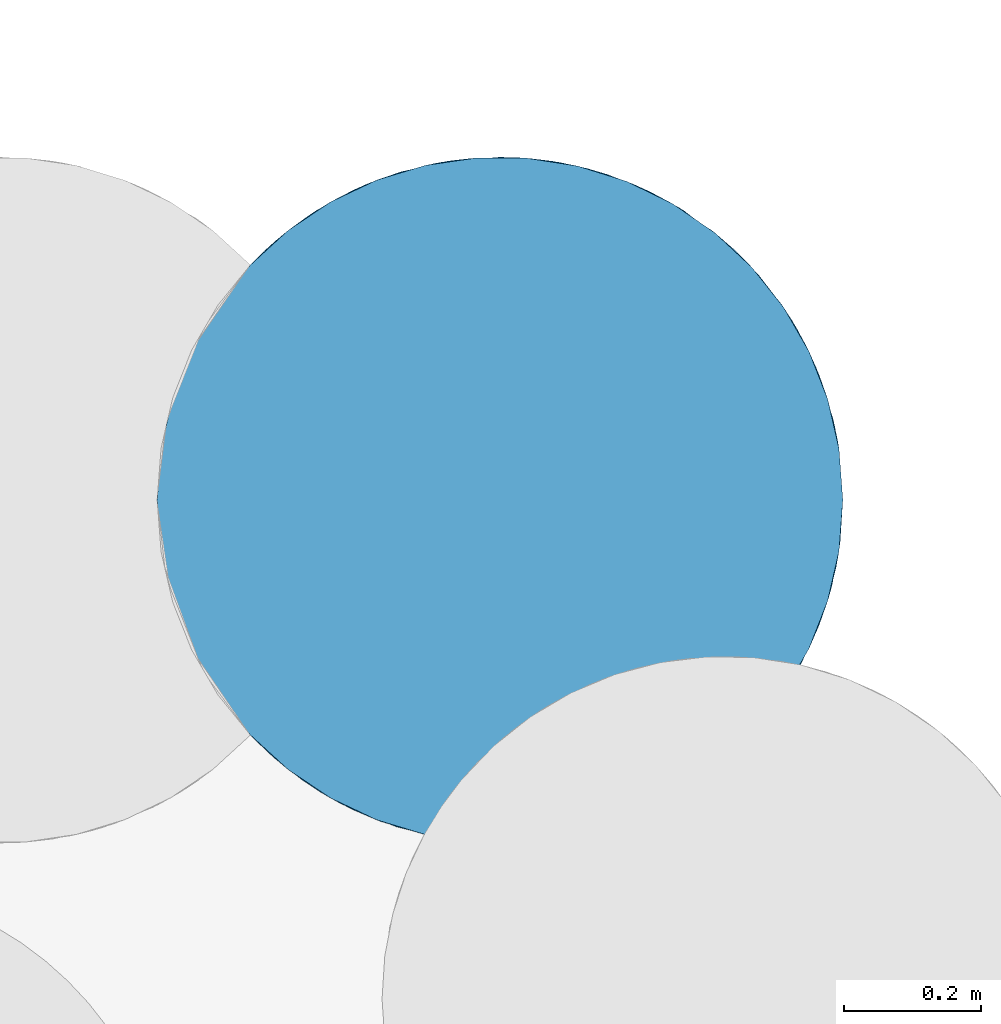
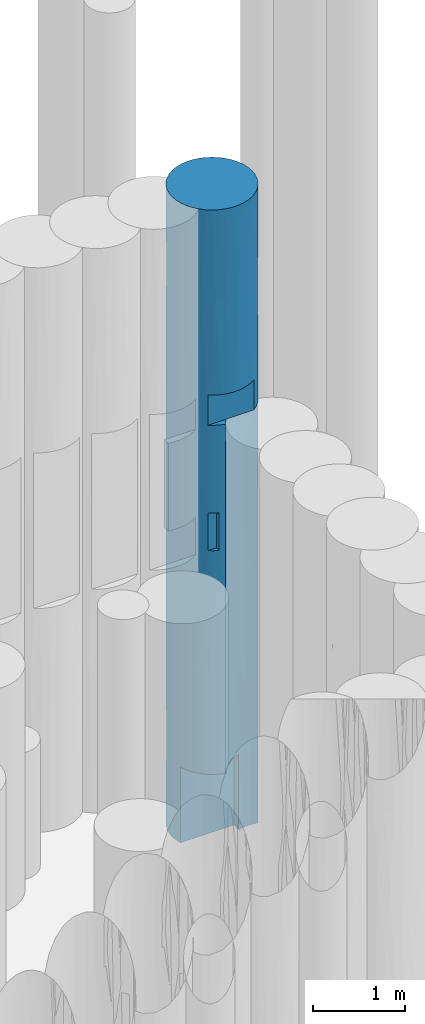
# One storey, part 70 of 104: 1 pile.
"""IFC2X3 building model written with IfcOpenShell, lengths in millimetres."""

from ifc_helpers import new_model, entity, si_unit, converted_unit, derived_unit, direction, frame, origin, place, context, subcontext, project, spatial, faceted_brep, source, transform, mapped, material, element, save


model = new_model("IFC2X3")

# Units and contexts
model_context = context("Model", 3, precision=0.01, world=origin(), true_north=direction((6.12303176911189e-17, 1.0)))
body_context = subcontext(model_context, "Body", "Model", "MODEL_VIEW")
ifc_project = project(units=[si_unit("LENGTHUNIT", "METRE", prefix="MILLI"), si_unit("AREAUNIT", "SQUARE_METRE", prefix="MILLI"), si_unit("VOLUMEUNIT", "CUBIC_METRE"), converted_unit("PLANEANGLEUNIT", "DEGREE", entity("IfcRatioMeasure", 0.0174532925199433), si_unit("PLANEANGLEUNIT", "RADIAN"), dimensions=[0, 0, 0, 0, 0, 0, 0]), si_unit("MASSUNIT", "GRAM", prefix="KILO"), derived_unit("MASSDENSITYUNIT", [(si_unit("MASSUNIT", "GRAM", prefix="KILO"), 1), (si_unit("LENGTHUNIT", "METRE"), -3)]), derived_unit("MOMENTOFINERTIAUNIT", [(si_unit("LENGTHUNIT", "METRE"), 4)]), si_unit("TIMEUNIT", "SECOND"), si_unit("FREQUENCYUNIT", "HERTZ"), si_unit("THERMODYNAMICTEMPERATUREUNIT", "DEGREE_CELSIUS"), derived_unit("THERMALTRANSMITTANCEUNIT", [(si_unit("MASSUNIT", "GRAM", prefix="KILO"), 1), (si_unit("THERMODYNAMICTEMPERATUREUNIT", "KELVIN"), -1), (si_unit("TIMEUNIT", "SECOND"), -3)]), derived_unit("VOLUMETRICFLOWRATEUNIT", [(si_unit("LENGTHUNIT", "METRE"), 3), (si_unit("TIMEUNIT", "SECOND"), -1)]), si_unit("ELECTRICCURRENTUNIT", "AMPERE"), si_unit("ELECTRICVOLTAGEUNIT", "VOLT"), si_unit("POWERUNIT", "WATT"), si_unit("FORCEUNIT", "NEWTON", prefix="KILO"), si_unit("ILLUMINANCEUNIT", "LUX"), si_unit("LUMINOUSFLUXUNIT", "LUMEN"), si_unit("LUMINOUSINTENSITYUNIT", "CANDELA"), derived_unit("USERDEFINED", [(si_unit("MASSUNIT", "GRAM", prefix="KILO"), -1), (si_unit("LENGTHUNIT", "METRE"), -2), (si_unit("TIMEUNIT", "SECOND"), 3), (si_unit("LUMINOUSFLUXUNIT", "LUMEN"), 1)]), derived_unit("LINEARVELOCITYUNIT", [(si_unit("LENGTHUNIT", "METRE"), 1), (si_unit("TIMEUNIT", "SECOND"), -1)]), si_unit("PRESSUREUNIT", "PASCAL"), derived_unit("USERDEFINED", [(si_unit("LENGTHUNIT", "METRE"), -2), (si_unit("MASSUNIT", "GRAM", prefix="KILO"), 1), (si_unit("TIMEUNIT", "SECOND"), -2)]), derived_unit("LINEARFORCEUNIT", [(si_unit("MASSUNIT", "GRAM", prefix="KILO"), 1), (si_unit("LENGTHUNIT", "METRE"), 1), (si_unit("TIMEUNIT", "SECOND"), -2), (si_unit("LENGTHUNIT", "METRE"), -1)]), derived_unit("PLANARFORCEUNIT", [(si_unit("MASSUNIT", "GRAM", prefix="KILO"), 1), (si_unit("LENGTHUNIT", "METRE"), 1), (si_unit("TIMEUNIT", "SECOND"), -2), (si_unit("LENGTHUNIT", "METRE"), -2)])], contexts=[model_context])

# Site, building, storey
site_placement = place(None, origin())
site = spatial("IfcSite", under=ifc_project, at=site_placement, Name="Theater aan de Parade", CompositionType="ELEMENT")
building_placement = place(site_placement, origin())
building = spatial("IfcBuilding", under=site, at=building_placement, Name="Theater aan de Parade", CompositionType="ELEMENT")
storey_placement = place(building_placement, frame((0.0, 0.0, -5520.0)))
storey = spatial("IfcBuildingStorey", under=building, at=storey_placement, Name="-2 kelder", CompositionType="ELEMENT", Elevation=-5520.0)

# Pile
ifc_material = material(Name="00_PBT_MAT_grout")
shared_shape = source(origin(), body_context, "Body", "Brep", [
    faceted_brep([(614.879752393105, 988.592835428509, 0.0), (685.979239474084, 966.35601996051, 0.0), (752.986099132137, 933.801996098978, 0.0), (814.412967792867, 891.653074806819, 0.0), (868.896207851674, 840.844476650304, 0.0), (915.226149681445, 782.50361533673, 0.0), (952.373927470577, 717.925122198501, 0.0), (979.514314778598, 648.542163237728, 0.0), (996.043880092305, 575.895838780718, 0.0), (1001.59527223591, 501.595272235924, 0.0), (997.667943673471, 439.050051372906, 0.0), (985.955293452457, 377.517192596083, 0.0), (966.641388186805, 317.932238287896, 0.0), (940.037790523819, 261.245198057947, 0.0), (878.381372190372, 271.209496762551, 0.0), (815.963734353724, 273.409418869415, 0.0), (753.758792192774, 267.810638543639, 0.0), (692.737142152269, 254.500514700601, 0.0), (692.737142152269, 356.68103265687, 0.0), (23.0559706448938, 356.68103265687, 0.0), (6.99007058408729, 428.344371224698, 0.0), (1.5952722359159, 501.595272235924, 0.0), (7.29158640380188, 576.853934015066, 0.0), (24.2499475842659, 650.395275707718, 0.0), (52.0837551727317, 720.54594254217, 0.0), (90.1583213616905, 785.707284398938, 0.0), (137.618418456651, 844.404449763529, 0.0), (192.581099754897, 894.673179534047, 0.0), (254.415546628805, 936.224060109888, 0.0), (321.736393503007, 968.125854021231, 0.0), (393.04921418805, 989.670833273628, 0.0), (466.77109862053, 1000.38107489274, 0.0), (541.265748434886, 1000.01904104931, 0.0), (935.004494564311, 750.907217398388, 6006.40132529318), (967.238216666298, 683.739853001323, 7166.73514551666), (987.240716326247, 620.542750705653, 6024.30978994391), (429.710411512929, 996.400857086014, 783.931231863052), (287.480995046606, 953.430503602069, 1278.67891560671), (578.28584604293, 995.678823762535, 1238.37083135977), (720.089799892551, 951.328683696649, 1238.37130453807), (952.373927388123, 717.925122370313, 8470.0), (979.51431475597, 648.542163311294, 8470.0), (842.60218751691, 867.264909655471, 829.93503961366), (935.004496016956, 750.90721487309, 1093.77232890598), (967.23821694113, 683.739852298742, 2012.58010753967), (979.748707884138, 647.777665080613, 1036.70203539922), (946.604077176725, 729.558347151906, 3007.50965257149), (987.455118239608, 619.663938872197, 3210.78052460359), (52.0837552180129, 720.545942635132, 8470.0), (36.8413800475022, 685.996518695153, 7378.86348015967), (24.2499475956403, 650.395275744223, 8470.0), (174.18136322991, 879.484319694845, 792.219441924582), (112.768381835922, 815.941656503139, 7378.87742593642), (915.529193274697, 782.056872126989, 6988.26448293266), (915.226149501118, 782.503615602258, 8470.0), (425.323759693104, 995.743687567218, 5160.58735903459), (460.391936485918, 999.89466529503, 6076.12888598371), (546.887284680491, 999.539680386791, 5519.09604126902), (720.089799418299, 951.328683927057, 7191.32349423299), (578.285845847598, 995.678823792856, 6830.56155741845), (578.285846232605, 995.678823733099, 7686.07261201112), (814.412967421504, 891.653075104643, 8470.0), (842.602186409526, 867.264910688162, 6880.8912949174), (868.89620756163, 840.844476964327, 8470.0), (69.889855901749, 753.846007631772, 2487.23146922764), (36.84137996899, 685.9965184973, 1316.25885127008), (16.5527936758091, 622.978112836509, 2468.34522716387), (164.150056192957, 870.554248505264, 1604.90228279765), (112.768381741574, 815.94165638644, 913.117482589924), (994.263535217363, 586.906365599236, 7493.8968677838), (1001.59527223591, 501.595272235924, 4235.0), (1001.59527223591, 501.595272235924, 3176.23864720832), (1001.59527223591, 501.595272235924, 3123.0754357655), (1001.59527223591, 501.595272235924, 2342.30657682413), (721.752506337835, 950.517083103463, 4293.41491700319), (720.089798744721, 951.3286842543, 5867.55129722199), (843.452386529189, 866.470200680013, 5079.32426143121), (911.414448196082, 788.035917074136, 3808.16910320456), (842.602186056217, 867.26491101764, 3489.23096735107), (650.844207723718, 978.800422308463, 2325.33443126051), (530.65224438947, 1000.75025054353, 2275.34397952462), (8.61685133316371, 585.095431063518, 7500.8427255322), (224.722184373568, 917.938031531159, 5826.45480846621), (304.356624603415, 961.048116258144, 5311.4688795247), (234.3673742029, 924.193486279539, 4653.12720320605), (993.784620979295, 589.627340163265, 1951.92212909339), (1001.59527223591, 501.595272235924, 2117.52270558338), (1001.59527223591, 501.595272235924, 1561.53771788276), (10.2811702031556, 594.387799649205, 3679.03770688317), (13.2799520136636, 609.057582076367, 5081.8905171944), (34.1815767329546, 679.146496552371, 4302.01610378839), (586.496600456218, 994.334315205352, 3335.025339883), (752.986098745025, 933.801996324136, 8470.0), (685.979239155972, 966.356020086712, 8470.0), (222.723380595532, 916.601860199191, 6928.79921998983), (192.581100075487, 894.673179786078, 8470.0), (254.415547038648, 936.224060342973, 8470.0), (161.808140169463, 868.398632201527, 3085.18352935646), (228.498480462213, 920.424762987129, 3778.98636503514), (287.480994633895, 953.430503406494, 2602.45453624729), (143.130957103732, 850.168556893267, 6338.53794671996), (69.8898561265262, 753.84600801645, 6468.24917571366), (429.710411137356, 996.400857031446, 1639.44637523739), (762.641649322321, 928.039628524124, 2381.95697908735), (695.660280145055, 962.397586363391, 3278.11985044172), (1001.59527223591, 501.595272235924, 780.799601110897), (9.21920859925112, 588.576948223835, 983.589582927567), (1001.59527223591, 501.595272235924, 8470.0), (1001.59527223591, 501.595272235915, 7689.2003988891), (1001.59527223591, 501.595272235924, 6908.46228211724), (16.5144203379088, 622.82467098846, 6193.84894821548), (1.5952722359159, 501.595272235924, 6908.46121169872), (810.201772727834, 894.993324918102, 5977.74937285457), (1.5952722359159, 501.595272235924, 8470.0), (7.29158640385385, 576.853934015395, 8470.0), (1.5952722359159, 501.595272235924, 1058.74156434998), (1.5952722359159, 501.595272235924, 1561.53878830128), (164.150056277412, 870.554248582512, 4980.68938137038), (90.1583214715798, 785.707284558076, 8470.0), (913.386067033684, 785.194181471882, 2086.50147537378), (429.710411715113, 996.400857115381, 7231.62737480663), (466.77109883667, 1000.38107490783, 8470.0), (393.049214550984, 989.67083335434, 8470.0), (321.079010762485, 967.871884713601, 7124.1059567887), (879.369920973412, 829.141169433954, 6132.9364975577), (356.990989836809, 980.228327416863, 6144.66396241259), (46.8848944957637, 709.53389869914, 5412.60505270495), (88.6878001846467, 783.565872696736, 4602.88569904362), (321.736393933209, 968.125854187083, 8470.0), (628.053542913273, 985.339322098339, 6039.01795246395), (659.507571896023, 976.004068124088, 5163.38770416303), (137.595272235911, 844.38383680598, 8470.0), (412.643588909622, 993.619253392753, 2869.78988386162), (541.265748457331, 1000.01904104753, 8470.0), (614.879752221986, 988.592835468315, 8470.0), (996.043880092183, 575.895838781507, 8470.0), (1001.59527223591, 501.595272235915, 6352.47729441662), (1001.59527223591, 501.595272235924, 5346.9245642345), (1.5952722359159, 501.595272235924, 2117.49437623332), (1.5952722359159, 501.595272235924, 3123.07757660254), (842.602187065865, 867.264910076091, 1727.79736485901), (100.491362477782, 800.117722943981, 5565.96232685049), (1.5952722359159, 501.595272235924, 5346.92242339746), (1.59527223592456, 501.595272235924, 5571.73559930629), (71.3637254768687, 756.351658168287, 3565.6640012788), (963.177863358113, 693.797019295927, 4042.89600481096), (990.367564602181, 606.959622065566, 4790.96224306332), (927.238143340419, 763.946461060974, 4895.75171750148), (404.33450723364, 992.044396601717, 3861.35767844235), (504.025174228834, 1001.58936777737, 4235.0), (500.703442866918, 1001.59447687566, 3065.47306574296), (861.742101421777, 848.4299034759, 2608.51416466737), (1001.59527223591, 501.595272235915, 5293.76135279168), (770.524282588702, 923.112991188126, 3618.11568856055), (615.560770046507, 988.433916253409, 4337.90594886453), (143.724944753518, 850.778359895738, 4036.74214475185), (307.080762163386, 962.208022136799, 3459.14084330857), (313.348361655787, 964.804836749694, 4336.05058340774), (1.5952722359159, 501.595272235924, 3176.24718811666), (1.5952722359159, 501.595272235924, 4235.0), (9.64634836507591, 412.22941576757, 1740.22174355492), (51.439447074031, 283.972357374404, 5820.0), (11.5485940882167, 402.326680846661, 4752.0906332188), (45.6281394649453, 296.427112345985, 4504.53263858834), (69.8898563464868, 249.344536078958, 7143.18927536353), (14.3812206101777, 389.245515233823, 7636.7435996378), (19.7188238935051, 368.197039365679, 6756.42794942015), (23.0559706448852, 356.681032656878, 1000.0), (32.2094058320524, 329.325401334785, 2204.61990219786), (68.8655841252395, 251.105717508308, 1000.0), (118.441121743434, 180.358759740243, 2386.20475806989), (985.281736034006, 374.916920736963, 3512.50000024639), (940.037790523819, 261.245198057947, 4215.0), (940.037790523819, 261.245198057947, 4058.46235266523), (940.037790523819, 261.245198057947, 2810.0), (8.81759326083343, 416.91848023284, 2646.87500000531), (100.559262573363, 202.981610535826, 1000.0), (137.597434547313, 158.804411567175, 1000.0), (287.480995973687, 49.7600404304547, 7267.61583211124), (213.720794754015, 92.7820077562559, 6020.0), (279.558542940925, 53.6000815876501, 6020.0), (192.187423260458, 108.827168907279, 1000.0), (239.311588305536, 75.9108008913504, 2489.48613672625), (213.720794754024, 92.7820077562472, 3960.0), (111.801901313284, 188.44813751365, 4210.0), (108.700047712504, 192.34886151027, 3293.15275742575), (253.563475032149, 67.4521764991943, 1000.0), (814.412967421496, 111.537469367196, 8470.0), (801.158356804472, 101.267958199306, 7202.44491409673), (868.896207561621, 162.346067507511, 8470.0), (85.2725335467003, 224.69208111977, 5059.30814964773), (539.902688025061, 3.06489011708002, 7219.69696330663), (577.984914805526, 7.4651046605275, 6020.0), (652.580979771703, 24.9367822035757, 6020.0), (983.625339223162, 368.753206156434, 2185.76885334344), (981.380976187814, 360.862623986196, 1088.42236360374), (265.888071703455, 60.6393610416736, 3960.0), (321.595269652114, 35.119121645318, 4460.0), (391.152753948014, 13.9453464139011, 4464.99072996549), (328.755608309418, 32.4189188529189, 5620.0), (14.4150756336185, 389.09880100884, 3705.62500004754), (391.152753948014, 13.9453464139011, 3309.99381997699), (321.595269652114, 35.119121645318, 3960.0), (940.037790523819, 261.245198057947, 5620.0), (893.149276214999, 190.652412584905, 7064.4236792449), (898.607835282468, 197.652802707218, 5620.0), (391.152753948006, 13.9453464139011, 4058.4622910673), (55.1539579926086, 276.450534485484, 3318.43130456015), (991.815351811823, 403.186565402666, 6630.15432883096), (213.720794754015, 92.7820077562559, 5620.0), (121.004364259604, 177.326000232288, 5820.0), (149.635910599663, 146.455007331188, 4977.65061845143), (164.150056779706, 132.636295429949, 7199.15895756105), (7.29158640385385, 426.336610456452, 8470.0), (24.2499475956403, 352.795268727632, 8470.0), (254.415547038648, 66.9664841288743, 8470.0), (192.581100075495, 108.517364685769, 8470.0), (320.375294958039, 35.5917101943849, 1000.0), (391.152753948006, 13.9453464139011, 2561.54356113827), (137.595272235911, 158.806707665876, 8470.0), (350.609564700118, 24.9367822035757, 6020.0), (90.1583214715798, 217.483259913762, 8470.0), (265.888071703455, 60.6393610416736, 4460.0), (269.283414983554, 58.8411632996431, 5620.0), (42.9251747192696, 302.543164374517, 1000.0), (321.7363939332, 35.064690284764, 8470.0), (425.205629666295, 7.4651046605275, 6020.0), (410.738933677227, 9.91943823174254, 7287.78775159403), (466.771098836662, 2.80946956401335, 8470.0), (541.265748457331, 3.17150342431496, 8470.0), (213.720794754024, 92.7820077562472, 4460.0), (52.0837552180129, 282.644601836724, 8470.0), (391.152753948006, 13.9453464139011, 1000.0), (391.152753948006, 13.9453464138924, 2496.92458213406), (13.3777980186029, 393.689304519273, 5767.15504092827), (940.037790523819, 261.245198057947, 1561.53963041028), (501.595272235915, 1.59527223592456, 6020.0), (391.152753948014, 13.9453464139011, 5620.0), (980.489837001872, 357.859417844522, 5756.20085378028), (985.826481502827, 377.015434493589, 4799.73030621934), (789.469749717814, 92.7820077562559, 6020.0), (789.469749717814, 92.7820077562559, 5620.0), (848.030021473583, 141.063769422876, 5620.0), (991.821717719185, 403.218282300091, 7581.74776866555), (967.238217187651, 319.450692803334, 7140.92274397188), (688.656307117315, 37.9055384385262, 7219.808007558), (685.979239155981, 36.8345243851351, 8470.0), (614.879752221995, 14.5977090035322, 8470.0), (393.049214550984, 13.5197111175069, 8470.0), (171.673674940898, 125.893609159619, 2960.42613065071), (723.632001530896, 53.6000815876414, 6020.0), (996.043880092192, 427.294705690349, 8470.0), (752.986098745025, 69.3885481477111, 8470.0), (979.514314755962, 354.648381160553, 8470.0), (915.226149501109, 220.686928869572, 8470.0), (952.373927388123, 285.265422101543, 8470.0), (692.737142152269, 356.68103265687, 1000.0), (692.737142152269, 254.500514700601, 1000.0), (618.585203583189, 226.888500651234, 1000.0), (549.717744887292, 187.924331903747, 1000.0), (487.859464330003, 138.583816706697, 1000.0), (434.559524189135, 80.1026257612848, 1000.0), (416.059350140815, 54.64338401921, 5620.0), (444.731883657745, 92.7820077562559, 5620.0), (321.595269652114, 92.7820077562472, 4460.0), (321.595269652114, 92.7820077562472, 3960.0), (845.876937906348, 273.330109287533, 1000.95137480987), (445.647049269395, 93.8822717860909, 4585.4608260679), (798.373770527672, 272.619538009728, 1942.63392286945), (655.114107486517, 242.163648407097, 2137.4758551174), (751.802361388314, 267.506461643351, 3006.52780209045), (636.404599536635, 234.764833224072, 3317.34933735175), (518.327069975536, 164.89069293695, 4143.0709114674), (449.230743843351, 98.1300554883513, 3483.58058766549), (769.021746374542, 269.912557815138, 4143.10613476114), (636.404599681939, 234.764833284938, 4490.37994669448), (735.038136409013, 264.572815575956, 5620.0), (872.0455818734, 271.789984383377, 5620.0), (605.151036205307, 220.389167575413, 5620.0), (545.970998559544, 185.368597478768, 5620.0), (851.1588857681, 273.130066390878, 3457.29441505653), (492.156724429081, 142.560347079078, 5620.0), (517.811041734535, 164.479645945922, 2478.52471731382), (549.700621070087, 187.912764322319, 3309.48423074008), (446.667978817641, 95.1021741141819, 2011.52822795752), (803.292087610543, 272.902935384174, 5620.0), (668.572685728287, 246.957423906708, 5620.0)], [[[0, 1, 2, 3, 4, 5, 6, 7, 8, 9, 10, 11, 12, 13, 14, 15, 16, 17, 18, 19, 20, 21, 22, 23, 24, 25, 26, 27, 28, 29, 30, 31, 32]], [[33, 34, 35]], [[36, 29, 37]], [[38, 39, 1]], [[40, 41, 34]], [[4, 3, 42]], [[43, 44, 45]], [[46, 47, 44]], [[48, 49, 50]], [[38, 32, 36]], [[51, 37, 28]], [[48, 52, 49]], [[0, 32, 38]], [[53, 54, 40]], [[55, 56, 57]], [[1, 0, 38]], [[34, 53, 40]], [[58, 59, 60]], [[58, 61, 62]], [[62, 61, 63]], [[45, 7, 6]], [[64, 65, 66]], [[42, 43, 5]], [[45, 8, 7]], [[64, 67, 68]], [[34, 41, 69]], [[47, 70, 71, 72, 73]], [[6, 43, 45]], [[74, 75, 76]], [[77, 78, 76]], [[79, 38, 80]], [[50, 49, 81]], [[82, 83, 84]], [[85, 73, 86, 87]], [[36, 31, 30]], [[26, 68, 51]], [[88, 89, 90]], [[54, 53, 63]], [[79, 80, 91]], [[92, 58, 93]], [[94, 95, 96]], [[58, 60, 93]], [[97, 98, 99]], [[26, 25, 68]], [[52, 100, 101]], [[102, 36, 37, 99]], [[103, 79, 104]], [[8, 87, 105, 9]], [[28, 37, 29]], [[67, 97, 99]], [[58, 92, 61]], [[65, 23, 106]], [[69, 107, 108, 109]], [[34, 33, 53]], [[81, 110, 111]], [[51, 68, 67]], [[112, 58, 62]], [[113, 114, 81]], [[24, 23, 65]], [[39, 2, 1]], [[106, 21, 115, 116]], [[117, 100, 82]], [[118, 52, 48]], [[44, 119, 46]], [[60, 120, 121]], [[122, 121, 120]], [[123, 122, 120]], [[2, 39, 42]], [[124, 76, 112]], [[125, 123, 120]], [[90, 126, 127]], [[24, 65, 68]], [[128, 123, 96]], [[123, 125, 94]], [[57, 129, 130]], [[52, 101, 49]], [[52, 95, 94]], [[97, 67, 64]], [[39, 38, 79]], [[52, 118, 131]], [[102, 132, 80]], [[89, 110, 126]], [[43, 119, 44]], [[67, 99, 37]], [[60, 133, 134]], [[58, 75, 129]], [[43, 6, 5]], [[28, 27, 51]], [[69, 41, 135]], [[35, 109, 136, 137]], [[106, 23, 22]], [[66, 116, 138, 139]], [[36, 32, 31]], [[80, 38, 102]], [[103, 39, 79]], [[39, 140, 42]], [[60, 121, 133]], [[56, 59, 57]], [[42, 5, 4]], [[119, 43, 140]], [[95, 52, 131]], [[100, 52, 94]], [[110, 49, 101]], [[50, 81, 114]], [[24, 68, 25]], [[64, 68, 65]], [[42, 3, 2]], [[43, 42, 140]], [[60, 134, 93]], [[120, 60, 59]], [[38, 36, 102]], [[36, 30, 29]], [[127, 126, 141]], [[110, 142, 143, 111]], [[126, 110, 101]], [[66, 88, 144]], [[77, 145, 46]], [[35, 146, 147]], [[82, 100, 94]], [[117, 127, 141]], [[94, 125, 82]], [[56, 55, 125]], [[125, 83, 82]], [[148, 149, 150]], [[35, 34, 69]], [[146, 47, 145]], [[66, 65, 106]], [[144, 88, 90]], [[140, 151, 119]], [[77, 46, 151]], [[46, 119, 151]], [[47, 46, 145]], [[70, 47, 146]], [[146, 137, 152, 70]], [[146, 145, 147]], [[35, 137, 146]], [[153, 76, 78]], [[147, 145, 77]], [[112, 76, 75]], [[76, 124, 147]], [[76, 147, 77]], [[147, 33, 35]], [[91, 104, 79]], [[74, 104, 154]], [[45, 85, 87]], [[8, 45, 87]], [[85, 45, 44]], [[73, 85, 47]], [[47, 85, 44]], [[127, 144, 90]], [[97, 155, 98]], [[132, 102, 99]], [[80, 150, 91]], [[156, 99, 98]], [[150, 149, 91]], [[154, 91, 149]], [[91, 154, 104]], [[74, 153, 104]], [[78, 151, 103]], [[103, 104, 153]], [[39, 103, 140]], [[57, 154, 149]], [[74, 154, 130]], [[57, 149, 55]], [[129, 57, 59]], [[148, 55, 149]], [[83, 55, 157]], [[101, 100, 141]], [[89, 126, 90]], [[117, 155, 127]], [[144, 97, 64]], [[144, 127, 155]], [[66, 144, 64]], [[88, 139, 158, 159]], [[110, 89, 142]], [[88, 159, 89]], [[159, 142, 89]], [[66, 139, 88]], [[101, 141, 126]], [[117, 141, 100]], [[98, 84, 157]], [[144, 155, 97]], [[84, 155, 117]], [[98, 157, 156]], [[103, 151, 140]], [[151, 78, 77]], [[37, 51, 67]], [[26, 51, 27]], [[155, 84, 98]], [[82, 84, 117]], [[148, 156, 157]], [[132, 99, 156]], [[125, 120, 56]], [[59, 56, 120]], [[96, 123, 94]], [[122, 123, 128]], [[76, 153, 74]], [[103, 153, 78]], [[124, 53, 33]], [[53, 62, 63]], [[107, 69, 135]], [[35, 69, 109]], [[21, 106, 22]], [[66, 106, 116]], [[110, 81, 49]], [[113, 81, 111]], [[55, 83, 125]], [[84, 83, 157]], [[58, 112, 75]], [[124, 112, 62]], [[53, 124, 62]], [[124, 33, 147]], [[156, 148, 132]], [[55, 148, 157]], [[80, 132, 150]], [[150, 132, 148]], [[58, 129, 59]], [[130, 129, 75]], [[74, 130, 75]], [[57, 130, 154]], [[160, 138, 116, 115]], [[161, 162, 163]], [[164, 165, 166]], [[167, 20, 19]], [[168, 169, 170]], [[171, 172, 173, 174]], [[175, 158, 139, 138]], [[170, 169, 176]], [[111, 166, 165]], [[177, 170, 176]], [[178, 179, 180]], [[167, 160, 115]], [[181, 182, 170]], [[183, 184, 185]], [[181, 186, 182]], [[187, 188, 189]], [[190, 161, 163]], [[191, 192, 193]], [[86, 194, 195]], [[196, 183, 182]], [[197, 198, 199]], [[162, 159, 200]], [[182, 201, 202]], [[203, 204, 205]], [[202, 201, 206, 198, 197]], [[168, 170, 207]], [[208, 136, 109, 108]], [[209, 210, 211]], [[210, 179, 212]], [[213, 165, 214]], [[113, 111, 165]], [[162, 200, 163]], [[210, 209, 179]], [[210, 164, 161]], [[178, 215, 216]], [[161, 164, 166]], [[217, 218, 182]], [[212, 164, 210]], [[212, 216, 219]], [[220, 178, 180]], [[207, 185, 184]], [[212, 221, 164]], [[222, 223, 209]], [[186, 217, 182]], [[105, 195, 10]], [[223, 222, 197]], [[197, 199, 223]], [[224, 168, 167]], [[216, 212, 178]], [[178, 212, 179]], [[178, 225, 215]], [[226, 227, 220]], [[202, 196, 182]], [[228, 191, 229]], [[169, 168, 224]], [[209, 230, 222]], [[231, 164, 221]], [[217, 232, 233, 218]], [[201, 182, 218]], [[162, 143, 142, 159]], [[143, 162, 234]], [[235, 194, 174]], [[183, 230, 184]], [[226, 236, 227]], [[214, 165, 231]], [[236, 192, 191]], [[175, 207, 200]], [[199, 198, 237]], [[191, 227, 236]], [[168, 175, 160]], [[230, 211, 184]], [[195, 105, 87, 86]], [[164, 231, 165]], [[195, 13, 12]], [[136, 208, 238]], [[203, 172, 239]], [[12, 11, 195]], [[240, 241, 242]], [[181, 170, 177]], [[200, 159, 158]], [[194, 71, 171]], [[10, 9, 105]], [[242, 205, 204]], [[208, 108, 243]], [[234, 111, 143]], [[221, 212, 219]], [[204, 203, 244]], [[245, 246, 247]], [[248, 225, 227]], [[227, 228, 248]], [[170, 249, 185]], [[245, 191, 193]], [[245, 193, 250]], [[108, 107, 251]], [[247, 229, 191]], [[200, 207, 163]], [[245, 247, 191]], [[252, 246, 245]], [[200, 158, 175]], [[240, 204, 188]], [[253, 244, 243]], [[252, 245, 188]], [[245, 250, 188]], [[166, 234, 161]], [[240, 242, 204]], [[254, 189, 204]], [[184, 211, 190]], [[239, 172, 171]], [[254, 204, 244]], [[194, 171, 174]], [[238, 152, 137, 136]], [[254, 244, 255]], [[152, 238, 239]], [[253, 255, 244]], [[194, 235, 195]], [[243, 108, 251]], [[207, 184, 163]], [[239, 171, 70]], [[225, 178, 227]], [[165, 213, 113]], [[250, 240, 188]], [[160, 175, 138]], [[175, 168, 207]], [[20, 167, 115]], [[168, 160, 167]], [[195, 235, 13]], [[21, 20, 115]], [[195, 11, 10]], [[253, 243, 251]], [[243, 244, 208]], [[203, 238, 244]], [[239, 70, 152]], [[239, 238, 203]], [[161, 234, 162]], [[111, 234, 166]], [[207, 170, 185]], [[170, 182, 249]], [[182, 183, 249]], [[183, 185, 249]], [[209, 211, 230]], [[190, 211, 210]], [[161, 190, 210]], [[184, 190, 163]], [[227, 178, 220]], [[228, 227, 191]], [[189, 188, 204]], [[252, 188, 187]], [[194, 86, 73, 72, 71]], [[71, 70, 171]], [[244, 238, 208]], [[92, 93, 134, 133, 121, 122, 128, 96, 95, 131, 118, 48, 50, 114, 113, 213, 214, 231, 221, 219, 216, 215, 225, 248, 228, 229, 247, 246, 252, 187, 189, 254, 255, 253, 251, 107, 135, 41, 40, 54, 63, 61]], [[256, 257, 258, 259, 260, 261, 232, 217, 186, 181, 177, 176, 169, 224, 167]], [[256, 167, 19, 18]], [[262, 263, 209, 223, 199, 237]], [[240, 250, 193, 192, 236, 226, 220, 180, 179]], [[240, 179, 209, 263, 241]], [[264, 230, 183, 265]], [[266, 257, 16]], [[267, 237, 198, 206]], [[257, 268, 269]], [[268, 235, 174]], [[270, 271, 269]], [[266, 15, 14]], [[272, 267, 273]], [[17, 16, 257]], [[274, 275, 271]], [[276, 275, 274]], [[277, 173, 172, 203]], [[278, 279, 275]], [[277, 274, 173]], [[270, 268, 280]], [[258, 257, 269]], [[263, 267, 281]], [[257, 266, 268]], [[282, 269, 283]], [[268, 266, 235]], [[272, 273, 283]], [[273, 206, 201, 218, 233]], [[272, 279, 281]], [[284, 233, 232]], [[282, 259, 269]], [[263, 262, 267]], [[232, 261, 284]], [[14, 13, 266]], [[285, 276, 274]], [[259, 282, 260]], [[279, 272, 275]], [[284, 261, 260]], [[270, 280, 274]], [[206, 273, 267]], [[267, 262, 237]], [[283, 271, 275]], [[276, 286, 275]], [[281, 267, 272]], [[272, 283, 275]], [[259, 258, 269]], [[286, 278, 275]], [[270, 274, 271]], [[285, 274, 277]], [[284, 282, 273]], [[233, 284, 273]], [[282, 284, 260]], [[271, 283, 269]], [[282, 283, 273]], [[13, 235, 266]], [[16, 15, 266]], [[280, 173, 274]], [[268, 270, 269]], [[280, 174, 173]], [[174, 280, 268]], [[205, 242, 241, 263, 281, 279, 278, 286, 276, 285, 277, 203]], [[196, 202, 265, 183]], [[264, 197, 222, 230]], [[264, 265, 202, 197]], [[257, 256, 18, 17]]]),
])
pile_placement = place(storey_placement, frame((41432.2628578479, 43807.2179922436, -3840.0)))
element("IfcPile", 1, at=pile_placement, inside=storey, material=ifc_material, Name="17_PBT_SFO_grondkering_rond:Ø1000 (grondkering)", ObjectType="17_PBT_SFO_grondkering_rond:Ø1000 (grondkering)", PredefinedType="NOTDEFINED", context=body_context, shape_type="MappedRepresentation", body=[
    mapped(shared_shape, transform((0.0, 0.0, 0.0), scale=1.0)),
])

save(model, "model.ifc")
